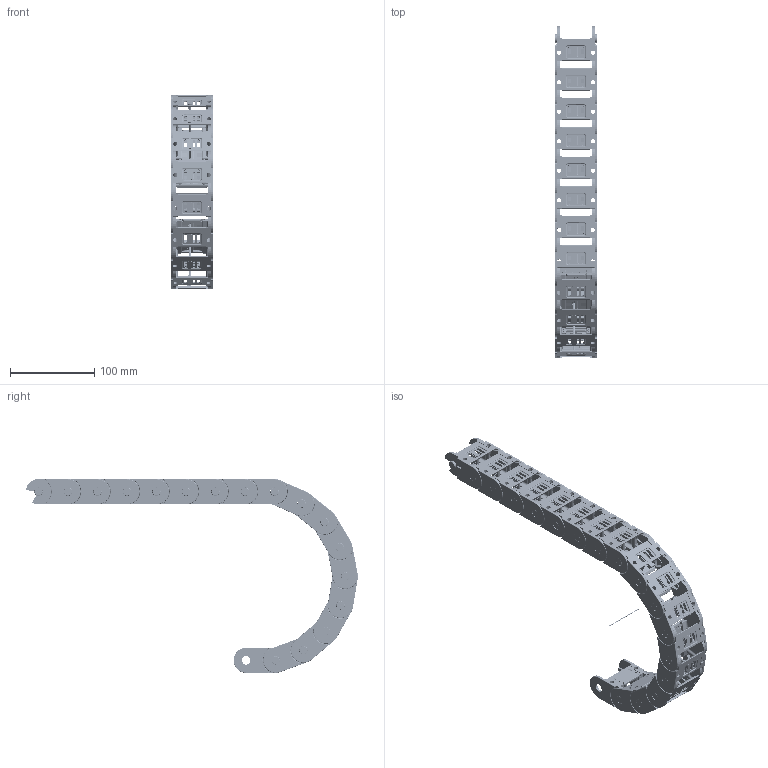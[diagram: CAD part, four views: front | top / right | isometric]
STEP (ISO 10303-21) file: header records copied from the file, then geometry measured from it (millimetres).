
FILE_DESCRIPTION((''),'2;1');
FILE_NAME('\\192.168.0.88\samba\technik\3D\STEP\KOLIBRI\KOLIBRI_30_050_0\KOLIBRI 30_050_0_R100.stp','2013-01-28T11:11:32',('Uebbing'),(''),'Autodesk Inventor 10','Autodesk Inventor 10','');
FILE_SCHEMA(('AUTOMOTIVE_DESIGN { 1 0 10303 214 1 1 1 1 }'));
Length unit declared in the file: millimetre
Products named in the file (6): KOLIBRI 30_050_0_PARAMETRISCH; Achse; Kol_30_050_0_Glied; Kol 30_050_0 Lasche; Kol 30_050_0 Klappsteg; PZ 30 Stecksteg
Assembly tree (21 placements, depth 3):
  KOLIBRI 30_050_0_PARAMETRISCH
    Achse
    Kol_30_050_0_Glied  x17
      Kol 30_050_0 Lasche
      Kol 30_050_0 Klappsteg
      PZ 30 Stecksteg
Bounding box: 50 x 393.59 x 230 mm (x, y, z)
Volume: 264840.6 mm3; surface area: 256648.4 mm2
Topology: 52 solids, 52 shells, 16272 faces, 44459 edges, 29124 vertices
Faces by surface type: plane 8366, bspline 3519, cylinder 3384, torus 765, cone 136, sphere 102
Full cylindrical faces by diameter (mm): 1 x1, 1.166 x17, 2.048 x17, 2.8 x136, 5.1 x34, 10 x34, 10.1 x34
Entity records: 33136 total; most frequent: CARTESIAN_POINT 9699, ORIENTED_EDGE 5150, DIRECTION 4266, EDGE_CURVE 2575, VERTEX_POINT 1701, VECTOR 1612, LINE 1612, AXIS2_PLACEMENT_3D 1327
